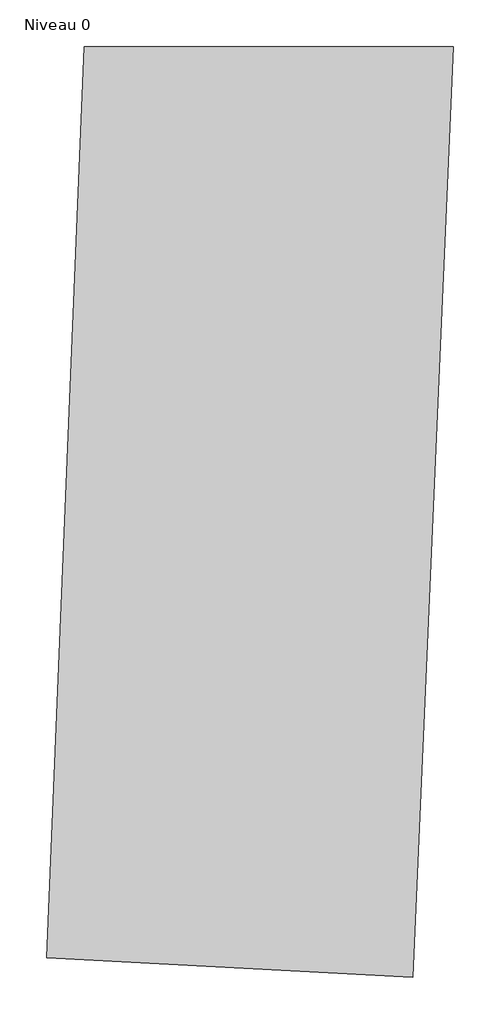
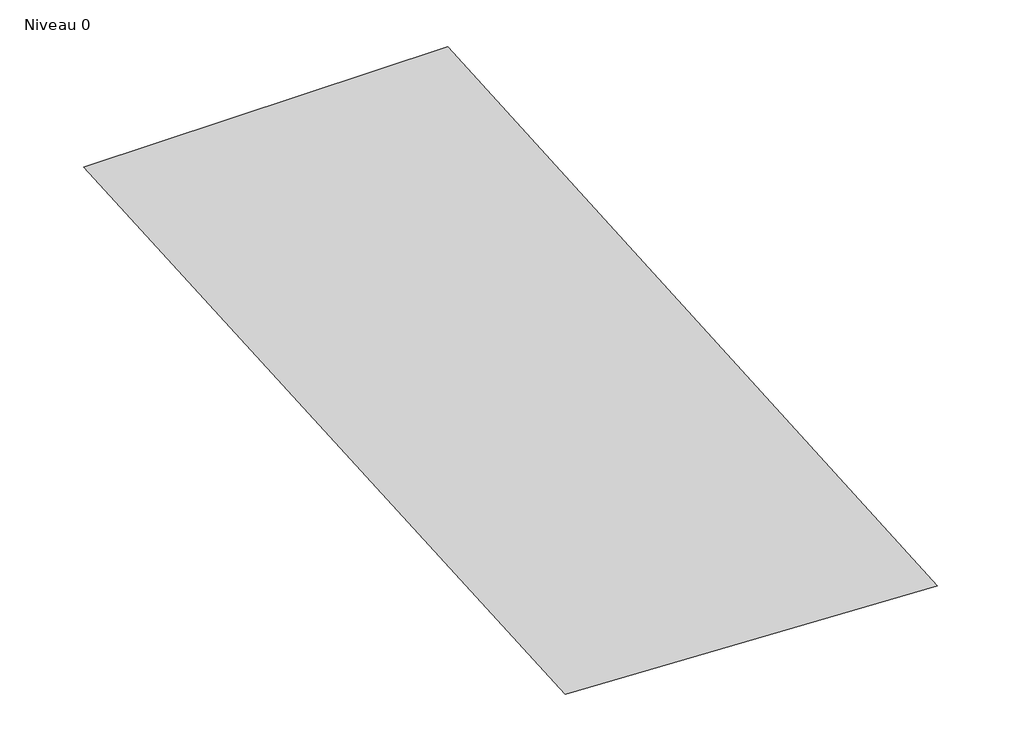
# One storey: 1 proxy.
"""IFC4 building model written with IfcOpenShell, lengths in millimetres."""

from ifc_helpers import new_model, si_unit, origin, place, context, project, spatial, triangles, element, save

model = new_model("IFC4")

# Units and contexts
model_context = context("Model", 3, world=origin())
ifc_project = project(units=[si_unit("LENGTHUNIT", "METRE", prefix="MILLI")], contexts=[model_context])

# Site, building, storey
site = spatial("IfcSite", under=ifc_project)
building = spatial("IfcBuilding", under=site)
storey = spatial("IfcBuildingStorey", under=building, Name="Niveau 0", Elevation=0.0)

# Proxy
placement = place(None, origin())
element("IfcBuildingElementProxy", 1, Name="Building Element Proxy", at=placement, inside=storey, context=model_context, shape_type="Tessellation", body=[
    triangles([(-95542.3356445, 188895.3165527, 0.0), (174167.7875977, 192068.3693848, 0.0), (169090.8881836, -179814.2894531, 0.0), (-127272.9383789, -163948.9880859, 0.0), (-96914.49375, 573804.1942383, 0.0), (202044.5976562, 573804.1942383, 0.0)], [[4, 1, 5], [1, 4, 3], [5, 1, 2], [3, 6, 2], [2, 6, 5], [3, 2, 1]], closed=False),
])

save(model, "model.ifc")
